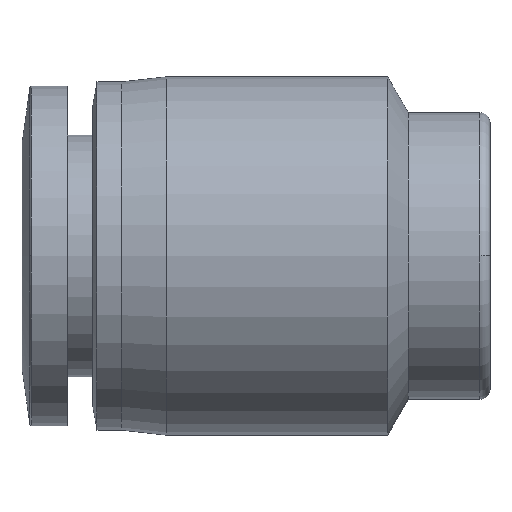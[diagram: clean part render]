
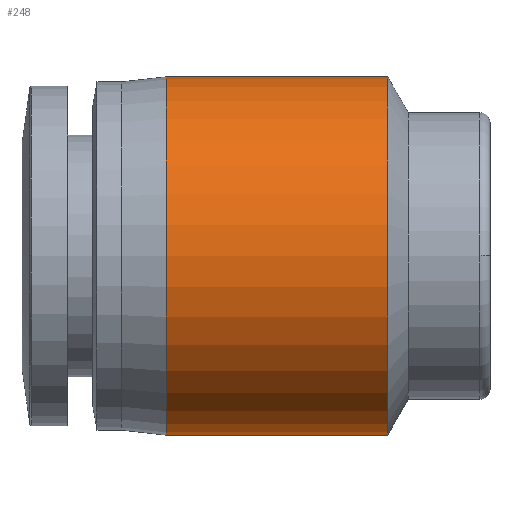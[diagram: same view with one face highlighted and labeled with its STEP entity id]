
A CAD part, top view. The second image highlights one B-rep face of the part: STEP entity #248.
In plain terms, the highlighted cylindrical face has radius 8.75 mm (diameter 17.5 mm), a partial arc.
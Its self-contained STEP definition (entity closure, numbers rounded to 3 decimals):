
#1 = VECTOR ( 'NONE', #714, 1000. ) ;
#127 = CARTESIAN_POINT ( 'NONE',  ( -5., 0., 0. ) ) ;
#158 = VERTEX_POINT ( 'NONE', #937 ) ;
#170 = CARTESIAN_POINT ( 'NONE',  ( -15.8, -8.75, 0. ) ) ;
#192 = ORIENTED_EDGE ( 'NONE', *, *, #329, .T. ) ;
#193 = CARTESIAN_POINT ( 'NONE',  ( -10.4, 0., 0. ) ) ;
#194 = DIRECTION ( 'NONE',  ( 0., 1., 0. ) ) ;
#200 = CARTESIAN_POINT ( 'NONE',  ( -10.4, 8.75, 0. ) ) ;
#210 = ORIENTED_EDGE ( 'NONE', *, *, #829, .T. ) ;
#233 = CARTESIAN_POINT ( 'NONE',  ( -15.8, 8.75, 0. ) ) ;
#237 = CIRCLE ( 'NONE', #536, 8.75 ) ;
#248 = ADVANCED_FACE ( 'NONE', ( #849 ), #334, .T. ) ;
#311 = DIRECTION ( 'NONE',  ( 1., 0., 0. ) ) ;
#318 = CARTESIAN_POINT ( 'NONE',  ( -15.8, 0., 0. ) ) ;
#329 = EDGE_CURVE ( 'NONE', #601, #779, #237, .T. ) ;
#334 = CYLINDRICAL_SURFACE ( 'NONE', #757, 8.75 ) ;
#438 = AXIS2_PLACEMENT_3D ( 'NONE', #127, #644, #194 ) ;
#461 = CARTESIAN_POINT ( 'NONE',  ( -10.4, -8.75, 0. ) ) ;
#467 = EDGE_CURVE ( 'NONE', #601, #158, #572, .T. ) ;
#491 = ORIENTED_EDGE ( 'NONE', *, *, #467, .F. ) ;
#511 = EDGE_CURVE ( 'NONE', #158, #762, #629, .T. ) ;
#536 = AXIS2_PLACEMENT_3D ( 'NONE', #318, #549, #749 ) ;
#549 = DIRECTION ( 'NONE',  ( 1., 0., 0. ) ) ;
#572 = LINE ( 'NONE', #200, #1 ) ;
#601 = VERTEX_POINT ( 'NONE', #233 ) ;
#621 = LINE ( 'NONE', #461, #706 ) ;
#629 = CIRCLE ( 'NONE', #438, 8.75 ) ;
#644 = DIRECTION ( 'NONE',  ( 1., 0., 0. ) ) ;
#652 = ORIENTED_EDGE ( 'NONE', *, *, #511, .F. ) ;
#706 = VECTOR ( 'NONE', #311, 1000. ) ;
#708 = DIRECTION ( 'NONE',  ( 0., 1., 0. ) ) ;
#714 = DIRECTION ( 'NONE',  ( 1., 0., 0. ) ) ;
#745 = EDGE_LOOP ( 'NONE', ( #192, #210, #652, #491 ) ) ;
#749 = DIRECTION ( 'NONE',  ( 0., 1., 0. ) ) ;
#757 = AXIS2_PLACEMENT_3D ( 'NONE', #193, #767, #708 ) ;
#762 = VERTEX_POINT ( 'NONE', #843 ) ;
#767 = DIRECTION ( 'NONE',  ( 1., 0., 0. ) ) ;
#779 = VERTEX_POINT ( 'NONE', #170 ) ;
#829 = EDGE_CURVE ( 'NONE', #779, #762, #621, .T. ) ;
#843 = CARTESIAN_POINT ( 'NONE',  ( -5., -8.75, 0. ) ) ;
#849 = FACE_OUTER_BOUND ( 'NONE', #745, .T. ) ;
#937 = CARTESIAN_POINT ( 'NONE',  ( -5., 8.75, 0. ) ) ;
